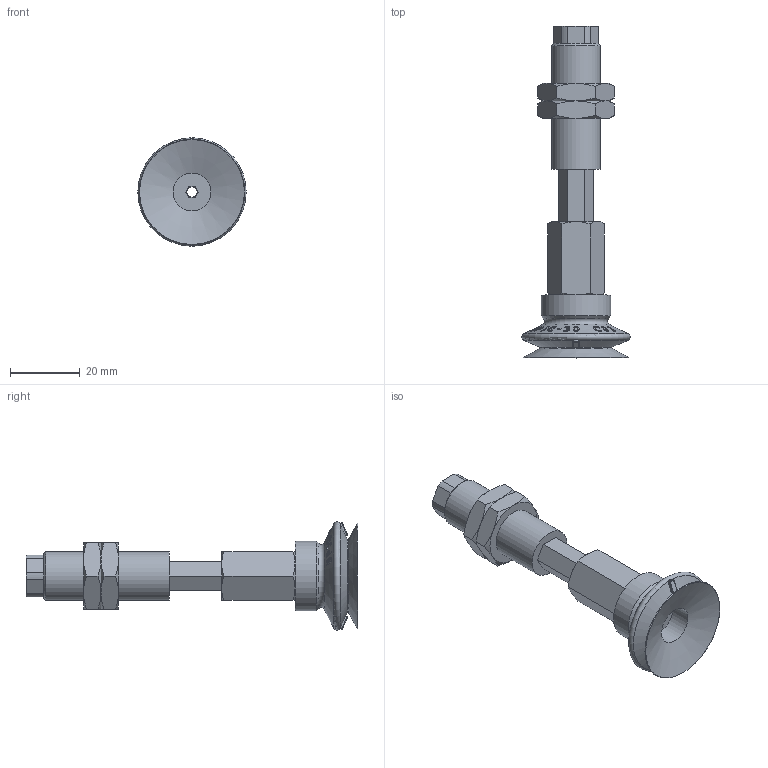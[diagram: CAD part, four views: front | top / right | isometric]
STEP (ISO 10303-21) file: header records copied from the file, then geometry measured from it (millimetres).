
FILE_DESCRIPTION(('STEP AP214'),'1');
FILE_NAME('.stp','2026-01-21T06:24:59',(' '),(' '),'Spatial InterOp 3D',' ',' ');
FILE_SCHEMA(('AUTOMOTIVE_DESIGN { 1 0 10303 214 1 1 1 1 }'));
Length unit declared in the file: millimetre
Products named in the file (7): BNABPJTH-30-15-※; ADAPTER; NAPJTH-30-15-MBODY; BPJG-30-※; Adapter-30-NAPJ; NAPJH-30-15-NUT; NAPJTH-30-15-FBODY
Assembly tree (7 placements, depth 2):
  BNABPJTH-30-15-※
    ADAPTER
    NAPJTH-30-15-MBODY
    BPJG-30-※
    Adapter-30-NAPJ
    NAPJH-30-15-NUT  x2
    NAPJTH-30-15-FBODY
Bounding box: 30.99 x 95 x 30.99 mm (x, y, z)
Volume: 17749.6 mm3; surface area: 12755.6 mm2
Topology: 7 solids, 7 shells, 780 faces, 2171 edges, 1426 vertices
Faces by surface type: plane 679, cone 67, cylinder 27, torus 7
Full cylindrical faces by diameter (mm): 3 x3, 4.134 x1, 4.917 x1, 5.8 x1, 6 x1, 10.8 x1, 11 x1, 13.188 x2, 14 x1, 20 x1
Entity records: 31265 total; most frequent: CARTESIAN_POINT 7744, ORIENTED_EDGE 4182, DIRECTION 2635, EDGE_CURVE 2091, VERTEX_POINT 1394, B_SPLINE_CURVE_WITH_KNOTS 1084, LINE 909, VECTOR 909
